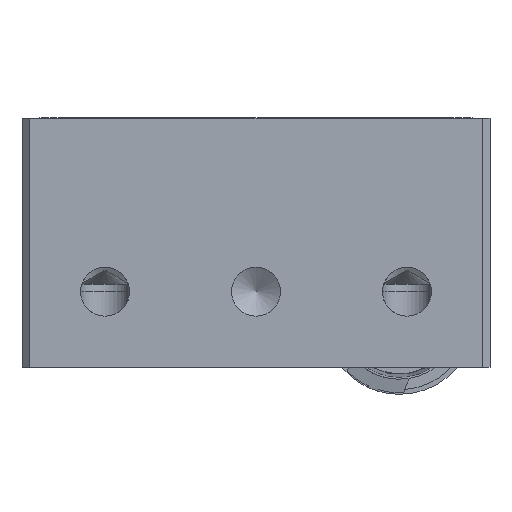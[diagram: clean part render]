
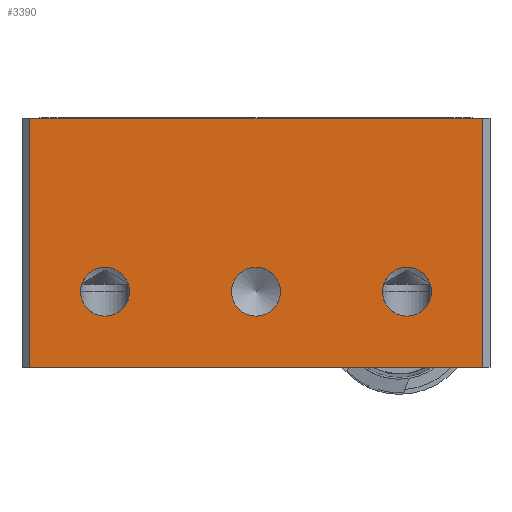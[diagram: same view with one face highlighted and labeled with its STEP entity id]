
A CAD part, front view. The second image highlights one B-rep face of the part: STEP entity #3390.
In plain terms, the highlighted planar face has unit normal (0, -1, 0).
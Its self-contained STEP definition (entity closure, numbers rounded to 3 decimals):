
#281=CIRCLE('',#4988,1.621);
#285=CIRCLE('',#4998,1.621);
#289=CIRCLE('',#5011,1.621);
#1111=ORIENTED_EDGE('',*,*,#1521,.T.);
#1112=ORIENTED_EDGE('',*,*,#1530,.T.);
#1113=ORIENTED_EDGE('',*,*,#1514,.T.);
#1114=ORIENTED_EDGE('',*,*,#1707,.F.);
#1115=ORIENTED_EDGE('',*,*,#1708,.T.);
#1116=ORIENTED_EDGE('',*,*,#1709,.T.);
#1117=ORIENTED_EDGE('',*,*,#1710,.T.);
#1514=EDGE_CURVE('',#1935,#1935,#281,.T.);
#1521=EDGE_CURVE('',#1940,#1940,#285,.T.);
#1530=EDGE_CURVE('',#1945,#1945,#289,.T.);
#1707=EDGE_CURVE('',#2062,#2063,#2289,.T.);
#1708=EDGE_CURVE('',#2062,#2064,#2290,.T.);
#1709=EDGE_CURVE('',#2064,#2065,#2291,.T.);
#1710=EDGE_CURVE('',#2065,#2063,#2292,.T.);
#1935=VERTEX_POINT('',#7343);
#1940=VERTEX_POINT('',#7358);
#1945=VERTEX_POINT('',#7376);
#2062=VERTEX_POINT('',#7903);
#2063=VERTEX_POINT('',#7904);
#2064=VERTEX_POINT('',#7906);
#2065=VERTEX_POINT('',#7908);
#2289=LINE('',#7902,#2525);
#2290=LINE('',#7905,#2526);
#2291=LINE('',#7907,#2527);
#2292=LINE('',#7909,#2528);
#2525=VECTOR('',#6036,1000.);
#2526=VECTOR('',#6037,1000.);
#2527=VECTOR('',#6038,1000.);
#2528=VECTOR('',#6039,1000.);
#2805=EDGE_LOOP('',(#1111));
#2806=EDGE_LOOP('',(#1112));
#2807=EDGE_LOOP('',(#1113));
#2808=EDGE_LOOP('',(#1114,#1115,#1116,#1117));
#3075=FACE_BOUND('',#2805,.T.);
#3076=FACE_BOUND('',#2806,.T.);
#3077=FACE_BOUND('',#2807,.T.);
#3078=FACE_BOUND('',#2808,.T.);
#3198=PLANE('',#5134);
#3390=ADVANCED_FACE('',(#3075,#3076,#3077,#3078),#3198,.F.);
#4988=AXIS2_PLACEMENT_3D('',#7342,#5648,#5649);
#4998=AXIS2_PLACEMENT_3D('',#7357,#5668,#5669);
#5011=AXIS2_PLACEMENT_3D('',#7375,#5694,#5695);
#5134=AXIS2_PLACEMENT_3D('',#7901,#6034,#6035);
#5648=DIRECTION('',(0.,1.,0.));
#5649=DIRECTION('',(0.,0.,-1.));
#5668=DIRECTION('',(0.,1.,0.));
#5669=DIRECTION('',(0.,0.,-1.));
#5694=DIRECTION('',(0.,1.,0.));
#5695=DIRECTION('',(0.,0.,-1.));
#6034=DIRECTION('',(0.,1.,0.));
#6035=DIRECTION('',(0.,0.,1.));
#6036=DIRECTION('',(-1.,0.,0.));
#6037=DIRECTION('',(0.,0.,1.));
#6038=DIRECTION('',(-1.,0.,0.));
#6039=DIRECTION('',(0.,0.,-1.));
#7342=CARTESIAN_POINT('',(0.,-28.5,-11.5));
#7343=CARTESIAN_POINT('',(0.,-28.5,-13.121));
#7357=CARTESIAN_POINT('',(-10.,-28.5,-11.5));
#7358=CARTESIAN_POINT('',(-10.,-28.5,-13.121));
#7375=CARTESIAN_POINT('',(10.,-28.5,-11.5));
#7376=CARTESIAN_POINT('',(10.,-28.5,-13.121));
#7901=CARTESIAN_POINT('',(15.5,-28.5,-16.5));
#7902=CARTESIAN_POINT('',(15.5,-28.5,-16.5));
#7903=CARTESIAN_POINT('',(15.,-28.5,-16.5));
#7904=CARTESIAN_POINT('',(-15.,-28.5,-16.5));
#7905=CARTESIAN_POINT('',(15.,-28.5,-16.5));
#7906=CARTESIAN_POINT('',(15.,-28.5,0.));
#7907=CARTESIAN_POINT('',(15.5,-28.5,0.));
#7908=CARTESIAN_POINT('',(-15.,-28.5,0.));
#7909=CARTESIAN_POINT('',(-15.,-28.5,-16.5));
